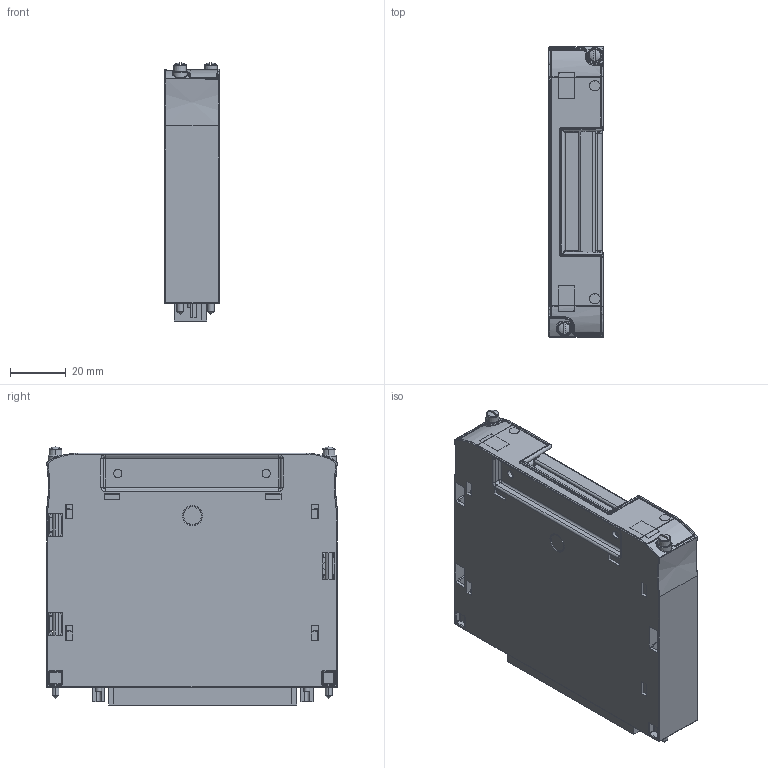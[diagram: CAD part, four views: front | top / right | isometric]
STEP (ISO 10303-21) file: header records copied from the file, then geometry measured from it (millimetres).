
FILE_DESCRIPTION((''),'2;1');
FILE_NAME('CU_TB-2634','2011-08-10T',('jjorden'),(''),'PRO/ENGINEER BY PARAMETRIC TECHNOLOGY CORPORATION, 2010230','PRO/ENGINEER BY PARAMETRIC TECHNOLOGY CORPORATION, 2010230','');
FILE_SCHEMA(('CONFIG_CONTROL_DESIGN'));
Products named in the file (1): CU_TB-2634
Bounding box: 19.53 x 104.54 x 92.77 mm (x, y, z)
Volume: 59822.7 mm3; surface area: 80642.5 mm2
Topology: 1 solids, 4 shells, 4008 faces, 9785 edges, 6001 vertices
Faces by surface type: plane 2811, cylinder 618, bspline 269, sphere 122, torus 122, cone 66
Entity records: 136050 total; most frequent: CARTESIAN_POINT 43396, ORIENTED_EDGE 19456, DIRECTION 17927, EDGE_CURVE 9728, VECTOR 7497, LINE 7497, VERTEX_POINT 6096, AXIS2_PLACEMENT_3D 5215
